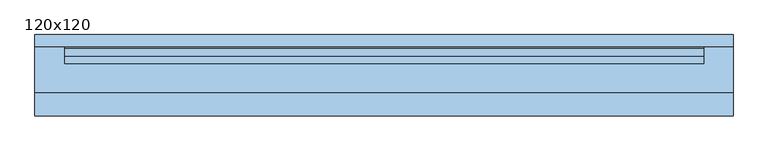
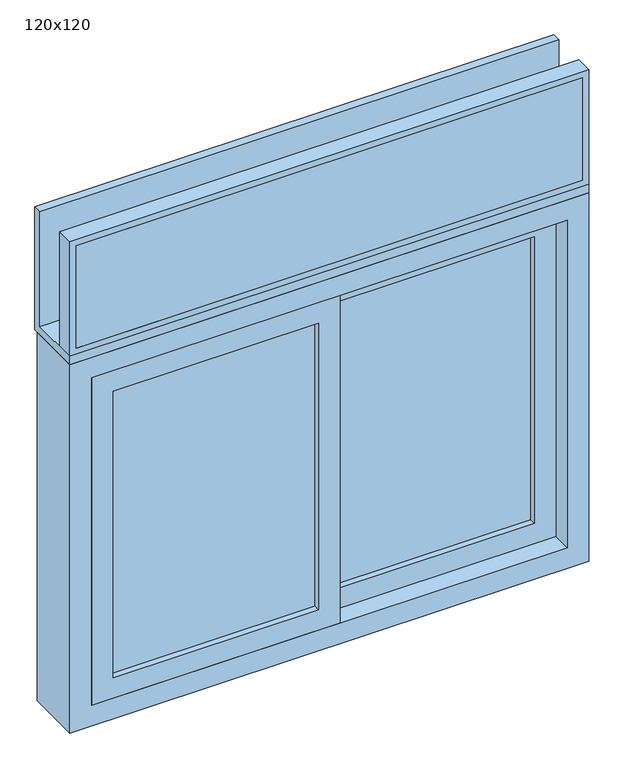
"""IFC4 building model written with IfcOpenShell, lengths in millimetres: window geometry, Veneziana - 2 Painéis : 120x120."""

from ifc_helpers import new_model, si_unit, frame, origin, place, context, project, spatial, polyline, outline, extrude, faceted_brep, source, transform, mapped, element, save


def window_120x120_8f0dd2b5(model_context):
    return source(origin(), model_context, "Body", "SolidModel", [
        faceted_brep([(-550.0, 60.0, 1570.0), (-550.0, 50.0, 1570.0), (-550.0, 20.0, 1570.0), (-550.0, 20.0, 1550.0), (-550.0, 60.0, 1550.0), (550.0, 50.0, 1570.0), (550.0, 60.0, 1570.0), (550.0, 60.0, 1550.0), (550.0, 20.0, 1550.0), (550.0, 20.0, 1570.0), (-600.0, 50.0, 1570.0), (-600.0, 50.0, 1850.0), (-600.0, 70.0, 1850.0), (-600.0, 70.0, 1550.0), (-600.0, -70.0, 1550.0), (-600.0, -70.0, 1570.0), (600.0, 50.0, 1570.0), (600.0, -70.0, 1570.0), (600.0, -70.0, 1550.0), (600.0, 70.0, 1550.0), (600.0, 70.0, 1850.0), (600.0, 50.0, 1850.0)], [[[0, 1, 2, 3, 4]], [[5, 6, 7, 8, 9]], [[6, 0, 4, 7]], [[3, 2, 9, 8]], [[10, 11, 12, 13, 14, 15]], [[16, 17, 18, 19, 20, 21]], [[11, 10, 1, 5, 16, 21]], [[12, 11, 21, 20]], [[13, 12, 20, 19]], [[14, 13, 19, 18], [4, 3, 8, 7]], [[15, 14, 18, 17]], [[10, 15, 17, 16, 5, 9, 2, 1]], [[0, 6, 5, 1]]]),
        extrude(outline(polyline([(-585.0, -70.0), (-585.0, -55.0), (585.0, -55.0), (585.0, -70.0), (-585.0, -70.0)])), frame((0.0, 0.0, 1585.0), z_axis=(0.0, 0.0, 1.0), x_axis=(1.0, 0.0, 0.0)), (0.0, 0.0, 1.0), 250.0),
        faceted_brep([(570.0, -40.0, 1820.0), (570.0, -30.0, 1820.0), (570.0, -30.0, 1600.0), (570.0, -40.0, 1600.0), (585.0, -70.0, 1835.0), (585.0, -40.0, 1835.0), (585.0, -40.0, 1585.0), (585.0, -70.0, 1585.0), (600.0, -30.0, 1850.0), (600.0, -70.0, 1850.0), (600.0, -70.0, 1570.0), (600.0, -30.0, 1570.0), (-570.0, -30.0, 1600.0), (-570.0, -40.0, 1600.0), (-585.0, -40.0, 1585.0), (-585.0, -70.0, 1585.0), (-600.0, -70.0, 1570.0), (-600.0, -30.0, 1570.0), (-570.0, -30.0, 1820.0), (-570.0, -40.0, 1820.0), (-585.0, -40.0, 1835.0), (-585.0, -70.0, 1835.0), (-600.0, -70.0, 1850.0), (-600.0, -30.0, 1850.0)], [[[0, 1, 2, 3]], [[4, 5, 6, 7]], [[8, 9, 10, 11]], [[3, 2, 12, 13]], [[7, 6, 14, 15]], [[11, 10, 16, 17]], [[13, 12, 18, 19]], [[15, 14, 20, 21]], [[17, 16, 22, 23]], [[19, 18, 1, 0]], [[5, 20, 14, 6], [3, 13, 19, 0]], [[21, 20, 5, 4]], [[9, 22, 16, 10], [7, 15, 21, 4]], [[23, 22, 9, 8]], [[11, 17, 23, 8], [1, 18, 12, 2]]]),
        faceted_brep([(550.0, 60.0, 700.0), (550.0, 47.0, 700.0), (550.0, 47.0, 1512.5), (550.0, 33.0, 1512.5), (550.0, 33.0, 700.0), (550.0, -70.0, 700.0), (550.0, -70.0, 1500.0), (550.0, 20.0, 1500.0), (550.0, 20.0, 1550.0), (550.0, 60.0, 1550.0), (-550.0, 60.0, 700.0), (-550.0, 47.0, 700.0), (-550.0, 47.0, 1512.5), (-562.5, 47.0, 1512.5), (-562.5, 47.0, 687.5), (562.5, 47.0, 687.5), (562.5, 47.0, 1512.5), (562.5, 33.0, 1512.5), (562.5, 33.0, 687.5), (-562.5, 33.0, 687.5), (-562.5, 33.0, 1512.5), (-550.0, 33.0, 1512.5), (-550.0, 33.0, 700.0), (-550.0, -70.0, 700.0), (600.0, -70.0, 650.0), (600.0, -70.0, 1550.0), (-600.0, -70.0, 1550.0), (-600.0, -70.0, 650.0), (-550.0, -70.0, 1500.0), (600.0, 60.0, 1550.0), (600.0, 60.0, 650.0), (-600.0, 60.0, 650.0), (-600.0, 60.0, 1550.0), (-550.0, 60.0, 1550.0), (-550.0, 20.0, 1550.0), (-550.0, 20.0, 1500.0)], [[[0, 1, 2, 3, 4, 5, 6, 7, 8, 9]], [[1, 0, 10, 11]], [[2, 1, 11, 12, 13, 14, 15, 16]], [[17, 18, 19, 20, 21, 22, 4, 3]], [[5, 4, 22, 23]], [[24, 25, 26, 27], [6, 5, 23, 28]], [[0, 9, 29, 30, 31, 32, 33, 10]], [[17, 16, 15, 18]], [[18, 15, 14, 19]], [[29, 25, 24, 30]], [[30, 24, 27, 31]], [[11, 10, 33, 34, 35, 28, 23, 22, 21, 12]], [[19, 14, 13, 20]], [[31, 27, 26, 32]], [[35, 34, 8, 7]], [[16, 17, 3, 2]], [[20, 13, 12, 21]], [[6, 28, 35, 7]], [[25, 29, 9, 8, 34, 33, 32, 26]]]),
        extrude(outline(polyline([(0.0, 0.0), (525.0, 0.0), (525.0, -10.0), (0.0, -10.0), (0.0, 0.0)])), frame((0.0, 0.0, 725.0), z_axis=(0.0, 0.0, 1.0), x_axis=(1.0, 0.0, 0.0)), (0.0, 0.0, 1.0), 750.0),
        extrude(outline(polyline([(-525.0, -45.0), (0.0, -45.0), (0.0, -55.0), (-525.0, -55.0), (-525.0, -45.0)])), frame((0.0, 0.0, 725.0), z_axis=(0.0, 0.0, 1.0), x_axis=(1.0, 0.0, 0.0)), (0.0, 0.0, 1.0), 750.0),
        faceted_brep([(500.0, 0.0, 1450.0), (500.0, 15.0, 1450.0), (500.0, 15.0, 750.0), (500.0, 0.0, 750.0), (550.0, 15.0, 700.0), (-25.0, 15.0, 700.0), (-25.0, 15.0, 1500.0), (550.0, 15.0, 1500.0), (25.0, 15.0, 1450.0), (25.0, 15.0, 750.0), (25.0, 0.0, 750.0), (525.0, 0.0, 1475.0), (0.0, 0.0, 1475.0), (0.0, 0.0, 725.0), (525.0, 0.0, 725.0), (25.0, 0.0, 1450.0), (525.0, -10.0, 1475.0), (525.0, -10.0, 725.0), (0.0, -10.0, 725.0), (0.0, -10.0, 1475.0), (500.0, -10.0, 1450.0), (25.0, -10.0, 1450.0), (25.0, -10.0, 750.0), (500.0, -10.0, 750.0), (500.0, -25.0, 1450.0), (500.0, -25.0, 750.0), (25.0, -25.0, 750.0), (550.0, -25.0, 1500.0), (-25.0, -25.0, 1500.0), (-25.0, -25.0, 700.0), (550.0, -25.0, 700.0), (25.0, -25.0, 1450.0)], [[[0, 1, 2, 3]], [[4, 5, 6, 7], [1, 8, 9, 2]], [[3, 2, 9, 10]], [[11, 12, 13, 14], [3, 10, 15, 0]], [[16, 11, 14, 17]], [[17, 14, 13, 18]], [[17, 18, 19, 16], [20, 21, 22, 23]], [[24, 20, 23, 25]], [[25, 23, 22, 26]], [[27, 28, 29, 30], [25, 26, 31, 24]], [[7, 27, 30, 4]], [[4, 30, 29, 5]], [[10, 9, 8, 15]], [[18, 13, 12, 19]], [[26, 22, 21, 31]], [[5, 29, 28, 6]], [[15, 8, 1, 0]], [[19, 12, 11, 16]], [[31, 21, 20, 24]], [[6, 28, 27, 7]]]),
        faceted_brep([(-25.0, -45.0, 1450.0), (-25.0, -30.0, 1450.0), (-25.0, -30.0, 750.0), (-25.0, -45.0, 750.0), (25.0, -30.0, 700.0), (-550.0, -30.0, 700.0), (-550.0, -30.0, 1500.0), (25.0, -30.0, 1500.0), (-500.0, -30.0, 1450.0), (-500.0, -30.0, 750.0), (-500.0, -45.0, 750.0), (0.0, -45.0, 1475.0), (-525.0, -45.0, 1475.0), (-525.0, -45.0, 725.0), (0.0, -45.0, 725.0), (-500.0, -45.0, 1450.0), (0.0, -55.0, 1475.0), (0.0, -55.0, 725.0), (-525.0, -55.0, 725.0), (-525.0, -55.0, 1475.0), (-25.0, -55.0, 1450.0), (-500.0, -55.0, 1450.0), (-500.0, -55.0, 750.0), (-25.0, -55.0, 750.0), (-25.0, -70.0, 1450.0), (-25.0, -70.0, 750.0), (-500.0, -70.0, 750.0), (25.0, -70.0, 1500.0), (-550.0, -70.0, 1500.0), (-550.0, -70.0, 700.0), (25.0, -70.0, 700.0), (-500.0, -70.0, 1450.0)], [[[0, 1, 2, 3]], [[4, 5, 6, 7], [1, 8, 9, 2]], [[3, 2, 9, 10]], [[11, 12, 13, 14], [3, 10, 15, 0]], [[16, 11, 14, 17]], [[17, 14, 13, 18]], [[17, 18, 19, 16], [20, 21, 22, 23]], [[24, 20, 23, 25]], [[25, 23, 22, 26]], [[27, 28, 29, 30], [25, 26, 31, 24]], [[7, 27, 30, 4]], [[4, 30, 29, 5]], [[10, 9, 8, 15]], [[18, 13, 12, 19]], [[26, 22, 21, 31]], [[5, 29, 28, 6]], [[15, 8, 1, 0]], [[19, 12, 11, 16]], [[31, 21, 20, 24]], [[6, 28, 27, 7]]]),
    ])


if __name__ == "__main__":
    model = new_model("IFC4")
    model_context = context("Model", 3, world=origin())
    ifc_project = project(units=[si_unit("LENGTHUNIT", "METRE", prefix="MILLI")], contexts=[model_context])
    site = spatial("IfcSite", under=ifc_project)
    building = spatial("IfcBuilding", under=site)
    placement = place(None, origin())
    window_120x120_shape = window_120x120_8f0dd2b5(model_context)
    element("IfcWindow", 1, ObjectType="Veneziana - 2 Painéis : 120x120", at=placement, inside=building, context=model_context, shape_type="MappedRepresentation", body=[
        mapped(window_120x120_shape, transform((0.0, 0.0, 0.0), x_axis=(1.0, 0.0, 0.0), y_axis=(0.0, 1.0, 0.0), z_axis=(0.0, 0.0, 1.0))),
    ])
    save(model, "model.ifc")
